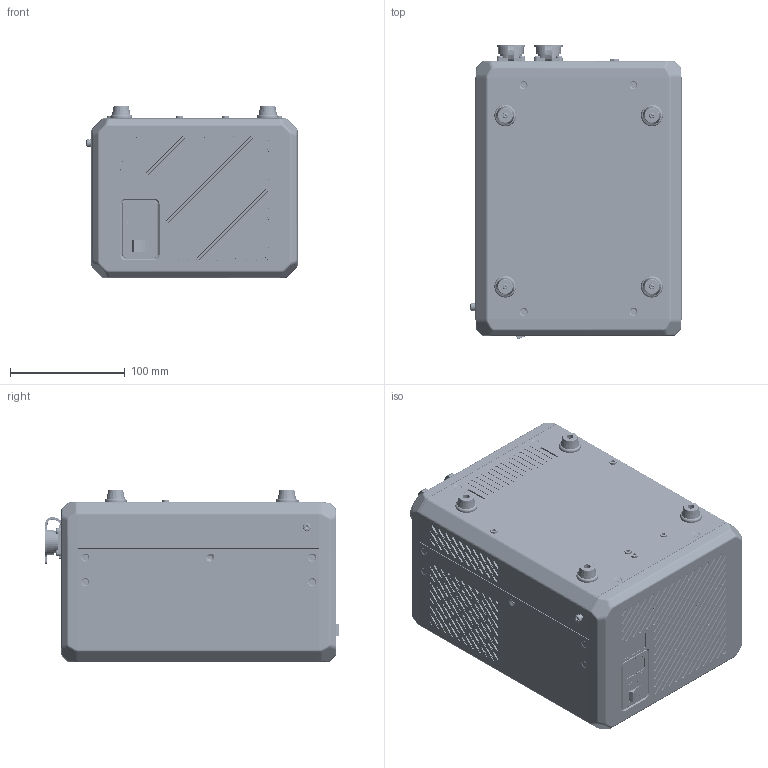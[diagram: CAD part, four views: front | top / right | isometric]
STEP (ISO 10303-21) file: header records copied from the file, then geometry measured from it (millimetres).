
FILE_DESCRIPTION((''),'2;1');
FILE_NAME('PRT0001','2024-03-29T16:09:45',('lizhoupeng'),(''),'CREO PARAMETRIC BY PTC INC, 2020044','CREO PARAMETRIC BY PTC INC, 2020044','');
FILE_SCHEMA(('AUTOMOTIVE_DESIGN { 1 0 10303 214 1 1 1 1 }'));
Products named in the file (1): PRT0001
Bounding box: 184.4 x 257.28 x 150.8 mm (x, y, z)
Volume: 5860448.3 mm3; surface area: 334248.1 mm2
Topology: 6 solids, 186 shells, 14269 faces, 38445 edges, 24781 vertices
Faces by surface type: plane 8661, cylinder 2925, bspline 1687, cone 741, torus 182, sphere 44, extrusion 29
Entity records: 505868 total; most frequent: CARTESIAN_POINT 154295, ORIENTED_EDGE 76440, DIRECTION 67957, EDGE_CURVE 38376, VECTOR 25615, LINE 25586, VERTEX_POINT 24791, AXIS2_PLACEMENT_3D 21171
